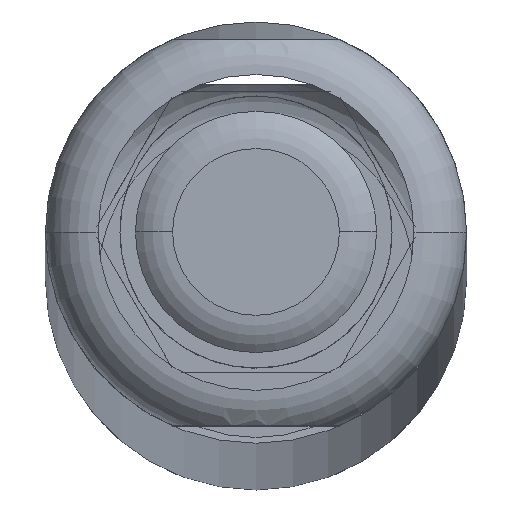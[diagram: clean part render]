
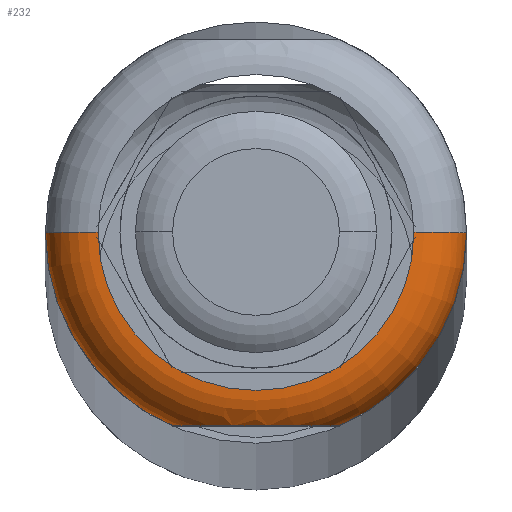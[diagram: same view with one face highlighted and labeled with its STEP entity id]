
A CAD part, top view. The second image highlights one B-rep face of the part: STEP entity #232.
In plain terms, the highlighted toroidal (fillet/blend) face has major radius 9 mm and minor radius 3 mm.
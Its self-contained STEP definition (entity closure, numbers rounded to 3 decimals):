
#27=CARTESIAN_POINT('',(-4.75,-11.02,14.5));
#28=CARTESIAN_POINT('',(-4.75,-11.02,14.551));
#29=CARTESIAN_POINT('',(-4.744,-11.02,14.654));
#30=CARTESIAN_POINT('',(-4.712,-11.02,14.815));
#31=CARTESIAN_POINT('',(-4.656,-11.02,14.978));
#32=CARTESIAN_POINT('',(-4.577,-11.02,15.141));
#33=CARTESIAN_POINT('',(-4.472,-11.02,15.302));
#34=CARTESIAN_POINT('',(-4.335,-11.02,15.467));
#35=CARTESIAN_POINT('',(-4.162,-11.02,15.634));
#36=CARTESIAN_POINT('',(-3.948,-11.02,15.802));
#37=CARTESIAN_POINT('',(-3.685,-11.02,15.968));
#38=CARTESIAN_POINT('',(-3.375,-11.02,16.126));
#39=CARTESIAN_POINT('',(-3.01,-11.02,16.274));
#40=CARTESIAN_POINT('',(-2.585,-11.02,16.409));
#41=CARTESIAN_POINT('',(-2.093,-11.02,16.527));
#42=CARTESIAN_POINT('',(-1.543,-11.02,16.621));
#43=CARTESIAN_POINT('',(-0.946,-11.02,16.686));
#44=CARTESIAN_POINT('',(-0.318,-11.02,16.72));
#45=CARTESIAN_POINT('',(0.318,-11.02,16.72));
#46=CARTESIAN_POINT('',(0.946,-11.02,16.686));
#47=CARTESIAN_POINT('',(1.543,-11.02,16.621));
#48=CARTESIAN_POINT('',(2.093,-11.02,16.527));
#49=CARTESIAN_POINT('',(2.585,-11.02,16.409));
#50=CARTESIAN_POINT('',(3.01,-11.02,16.274));
#51=CARTESIAN_POINT('',(3.375,-11.02,16.126));
#52=CARTESIAN_POINT('',(3.685,-11.02,15.968));
#53=CARTESIAN_POINT('',(3.948,-11.02,15.802));
#54=CARTESIAN_POINT('',(4.162,-11.02,15.634));
#55=CARTESIAN_POINT('',(4.335,-11.02,15.467));
#56=CARTESIAN_POINT('',(4.472,-11.02,15.302));
#57=CARTESIAN_POINT('',(4.577,-11.02,15.141));
#58=CARTESIAN_POINT('',(4.656,-11.02,14.978));
#59=CARTESIAN_POINT('',(4.712,-11.02,14.815));
#60=CARTESIAN_POINT('',(4.744,-11.02,14.654));
#61=CARTESIAN_POINT('',(4.75,-11.02,14.551));
#62=CARTESIAN_POINT('',(4.75,-11.02,14.5));
#68=CARTESIAN_POINT('',(0.,0.,14.5));
#69=DIRECTION('',(0.,0.,-1.));
#70=DIRECTION('',(-0.396,-0.918,0.));
#71=AXIS2_PLACEMENT_3D('',#68,#69,#70);
#73=CARTESIAN_POINT('',(-9.,0.,14.5));
#74=DIRECTION('',(0.,-1.,0.));
#75=DIRECTION('',(0.,0.,1.));
#76=AXIS2_PLACEMENT_3D('',#73,#74,#75);
#78=CARTESIAN_POINT('',(0.,0.,17.5));
#79=DIRECTION('',(0.,0.,1.));
#80=DIRECTION('',(-1.,0.,0.));
#81=AXIS2_PLACEMENT_3D('',#78,#79,#80);
#83=CARTESIAN_POINT('',(9.,0.,14.5));
#84=DIRECTION('',(0.,1.,0.));
#85=DIRECTION('',(0.,0.,1.));
#86=AXIS2_PLACEMENT_3D('',#83,#84,#85);
#88=CARTESIAN_POINT('',(0.,0.,14.5));
#89=DIRECTION('',(0.,0.,-1.));
#90=DIRECTION('',(1.,0.,0.));
#91=AXIS2_PLACEMENT_3D('',#88,#89,#90);
#175=VERTEX_POINT('',#27);
#176=VERTEX_POINT('',#62);
#177=CARTESIAN_POINT('',(-12.,0.,14.5));
#178=VERTEX_POINT('',#177);
#179=CARTESIAN_POINT('',(-9.,0.,17.5));
#180=CARTESIAN_POINT('',(9.,0.,17.5));
#181=VERTEX_POINT('',#179);
#182=VERTEX_POINT('',#180);
#183=CARTESIAN_POINT('',(12.,0.,14.5));
#184=VERTEX_POINT('',#183);
#214=CARTESIAN_POINT('',(0.,0.,14.5));
#215=DIRECTION('',(0.,0.,1.));
#216=DIRECTION('',(0.394,0.919,0.));
#217=AXIS2_PLACEMENT_3D('',#214,#215,#216);
#218=TOROIDAL_SURFACE('',#217,9.,3.);
#219=ORIENTED_EDGE('',*,*,#207,.F.);
#221=ORIENTED_EDGE('',*,*,#220,.T.);
#223=ORIENTED_EDGE('',*,*,#222,.F.);
#225=ORIENTED_EDGE('',*,*,#224,.T.);
#227=ORIENTED_EDGE('',*,*,#226,.T.);
#229=ORIENTED_EDGE('',*,*,#228,.T.);
#230=EDGE_LOOP('',(#219,#221,#223,#225,#227,#229));
#231=FACE_OUTER_BOUND('',#230,.F.);
#232=ADVANCED_FACE('',(#231),#218,.T.);
#63=B_SPLINE_CURVE_WITH_KNOTS('',3,(#27,#28,#29,#30,#31,#32,#33,#34,#35,#36,#37,
#38,#39,#40,#41,#42,#43,#44,#45,#46,#47,#48,#49,#50,#51,#52,#53,#54,#55,#56,#57,
#58,#59,#60,#61,#62),.UNSPECIFIED.,.F.,.F.,(4,1,1,1,1,1,1,1,1,1,1,1,1,1,1,1,1,1,
1,1,1,1,1,1,1,1,1,1,1,1,1,1,1,4),(0.,0.03,0.061,
0.091,0.121,0.152,0.182,
0.212,0.242,0.273,0.303,
0.333,0.364,0.394,0.424,
0.455,0.485,0.515,0.545,
0.576,0.606,0.636,0.667,
0.697,0.727,0.758,0.788,
0.818,0.848,0.879,0.909,
0.939,0.97,1.),.UNSPECIFIED.);
#72=CIRCLE('',#71,12.);
#77=CIRCLE('',#76,3.);
#82=CIRCLE('',#81,9.);
#87=CIRCLE('',#86,3.);
#92=CIRCLE('',#91,12.);
#207=EDGE_CURVE('',#175,#176,#63,.T.);
#220=EDGE_CURVE('',#175,#178,#72,.T.);
#222=EDGE_CURVE('',#181,#178,#77,.T.);
#224=EDGE_CURVE('',#181,#182,#82,.T.);
#226=EDGE_CURVE('',#182,#184,#87,.T.);
#228=EDGE_CURVE('',#184,#176,#92,.T.);
